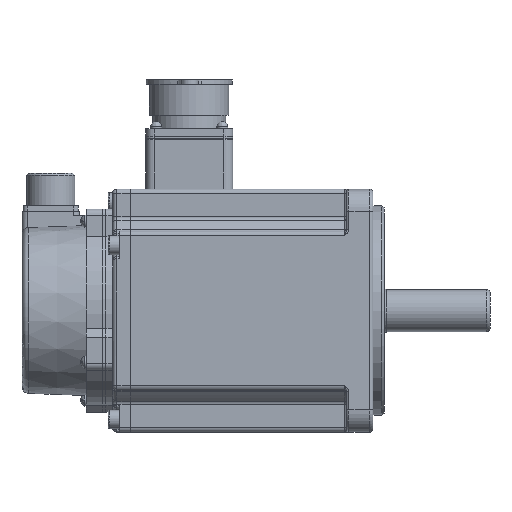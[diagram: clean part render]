
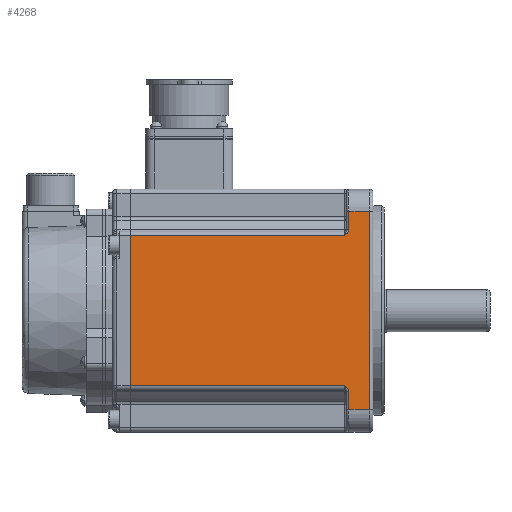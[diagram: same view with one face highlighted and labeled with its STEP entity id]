
A CAD part, left-side view. The second image highlights one B-rep face of the part: STEP entity #4268.
In plain terms, the highlighted planar face has unit normal (-1, 0, 0).
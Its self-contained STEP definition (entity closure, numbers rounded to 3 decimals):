
#1133=LINE('',#25789,#1985);
#1134=LINE('',#25812,#1986);
#1135=LINE('',#25814,#1987);
#1136=LINE('',#25816,#1988);
#1137=LINE('',#25818,#1989);
#1138=LINE('',#25820,#1990);
#1139=LINE('',#25842,#1991);
#1140=LINE('',#25844,#1992);
#1985=VECTOR('',#20324,1.);
#1986=VECTOR('',#20325,1.);
#1987=VECTOR('',#20326,1.);
#1988=VECTOR('',#20327,1.);
#1989=VECTOR('',#20328,1.);
#1990=VECTOR('',#20329,1.);
#1991=VECTOR('',#20330,1.);
#1992=VECTOR('',#20331,1.);
#2324=B_SPLINE_CURVE_WITH_KNOTS('',3,(#25792,#25793,#25794,#25795,#25796,
#25797,#25798,#25799,#25800,#25801,#25802,#25803,#25804,#25805,#25806,#25807,
#25808,#25809,#25810),.UNSPECIFIED.,.F.,.F.,(4,3,3,3,3,3,4),(0.,0.002,
0.104,0.205,0.569,0.789,1.),
 .UNSPECIFIED.);
#2325=B_SPLINE_CURVE_WITH_KNOTS('',3,(#25822,#25823,#25824,#25825,#25826,
#25827,#25828,#25829,#25830,#25831,#25832,#25833,#25834,#25835,#25836,#25837,
#25838,#25839,#25840),.UNSPECIFIED.,.F.,.F.,(4,3,3,3,3,3,4),(0.,0.211,
0.431,0.795,0.896,0.998,
1.),.UNSPECIFIED.);
#2930=FACE_OUTER_BOUND('',#6154,.T.);
#4268=ADVANCED_FACE('',(#2930),#4922,.T.);
#4922=PLANE('',#16499);
#6154=EDGE_LOOP('',(#9148,#9149,#9150,#9151,#9152,#9153,#9154,#9155,#9156,
#9157));
#9148=ORIENTED_EDGE('',*,*,#13445,.T.);
#9149=ORIENTED_EDGE('',*,*,#13446,.T.);
#9150=ORIENTED_EDGE('',*,*,#13447,.T.);
#9151=ORIENTED_EDGE('',*,*,#13448,.T.);
#9152=ORIENTED_EDGE('',*,*,#13449,.T.);
#9153=ORIENTED_EDGE('',*,*,#13450,.T.);
#9154=ORIENTED_EDGE('',*,*,#13451,.T.);
#9155=ORIENTED_EDGE('',*,*,#13452,.T.);
#9156=ORIENTED_EDGE('',*,*,#13453,.T.);
#9157=ORIENTED_EDGE('',*,*,#13454,.F.);
#11693=VERTEX_POINT('',#25790);
#11694=VERTEX_POINT('',#25791);
#11695=VERTEX_POINT('',#25811);
#11696=VERTEX_POINT('',#25813);
#11697=VERTEX_POINT('',#25815);
#11698=VERTEX_POINT('',#25817);
#11699=VERTEX_POINT('',#25819);
#11700=VERTEX_POINT('',#25821);
#11701=VERTEX_POINT('',#25841);
#11702=VERTEX_POINT('',#25843);
#13445=EDGE_CURVE('',#11693,#11694,#1133,.T.);
#13446=EDGE_CURVE('',#11694,#11695,#2324,.T.);
#13447=EDGE_CURVE('',#11695,#11696,#1134,.T.);
#13448=EDGE_CURVE('',#11696,#11697,#1135,.T.);
#13449=EDGE_CURVE('',#11697,#11698,#1136,.T.);
#13450=EDGE_CURVE('',#11698,#11699,#1137,.T.);
#13451=EDGE_CURVE('',#11699,#11700,#1138,.T.);
#13452=EDGE_CURVE('',#11700,#11701,#2325,.T.);
#13453=EDGE_CURVE('',#11701,#11702,#1139,.T.);
#13454=EDGE_CURVE('',#11693,#11702,#1140,.T.);
#16499=AXIS2_PLACEMENT_3D('',#25845,#20332,#20333);
#20324=DIRECTION('',(0.,-1.,0.));
#20325=DIRECTION('',(0.,0.,-1.));
#20326=DIRECTION('',(0.,-1.,0.));
#20327=DIRECTION('',(0.,0.,1.));
#20328=DIRECTION('',(0.,1.,0.));
#20329=DIRECTION('',(0.,0.,-1.));
#20330=DIRECTION('',(0.,1.,0.));
#20331=DIRECTION('',(0.,0.,1.));
#20332=DIRECTION('',(-1.,0.,0.));
#20333=DIRECTION('',(0.,0.,-1.));
#25789=CARTESIAN_POINT('',(0.124,236.222,-125.192));
#25790=CARTESIAN_POINT('',(0.124,313.922,-125.192));
#25791=CARTESIAN_POINT('',(0.124,216.922,-125.192));
#25792=CARTESIAN_POINT('',(0.124,216.922,-125.192));
#25793=CARTESIAN_POINT('',(0.124,216.92,-125.194));
#25794=CARTESIAN_POINT('',(0.124,216.917,-125.196));
#25795=CARTESIAN_POINT('',(0.124,216.915,-125.197));
#25796=CARTESIAN_POINT('',(0.124,216.815,-125.268));
#25797=CARTESIAN_POINT('',(0.124,216.715,-125.339));
#25798=CARTESIAN_POINT('',(0.124,216.616,-125.411));
#25799=CARTESIAN_POINT('',(0.124,216.517,-125.482));
#25800=CARTESIAN_POINT('',(0.124,216.419,-125.555));
#25801=CARTESIAN_POINT('',(0.124,216.323,-125.631));
#25802=CARTESIAN_POINT('',(0.124,215.98,-125.899));
#25803=CARTESIAN_POINT('',(0.124,215.654,-126.204));
#25804=CARTESIAN_POINT('',(0.124,215.406,-126.562));
#25805=CARTESIAN_POINT('',(0.124,215.255,-126.78));
#25806=CARTESIAN_POINT('',(0.124,215.13,-127.019));
#25807=CARTESIAN_POINT('',(0.124,215.046,-127.271));
#25808=CARTESIAN_POINT('',(0.124,214.966,-127.511));
#25809=CARTESIAN_POINT('',(0.124,214.922,-127.767));
#25810=CARTESIAN_POINT('',(0.124,214.922,-128.021));
#25811=CARTESIAN_POINT('',(0.124,214.922,-128.021));
#25812=CARTESIAN_POINT('',(0.124,214.922,-127.192));
#25813=CARTESIAN_POINT('',(0.124,214.922,-136.192));
#25814=CARTESIAN_POINT('',(0.124,203.922,-136.192));
#25815=CARTESIAN_POINT('',(0.124,205.422,-136.192));
#25816=CARTESIAN_POINT('',(0.124,205.422,-46.192));
#25817=CARTESIAN_POINT('',(0.124,205.422,-46.192));
#25818=CARTESIAN_POINT('',(0.124,203.922,-46.192));
#25819=CARTESIAN_POINT('',(0.124,214.922,-46.192));
#25820=CARTESIAN_POINT('',(0.124,214.922,-127.192));
#25821=CARTESIAN_POINT('',(0.124,214.922,-54.364));
#25822=CARTESIAN_POINT('',(0.124,214.922,-54.364));
#25823=CARTESIAN_POINT('',(0.124,214.922,-54.617));
#25824=CARTESIAN_POINT('',(0.124,214.966,-54.873));
#25825=CARTESIAN_POINT('',(0.124,215.046,-55.114));
#25826=CARTESIAN_POINT('',(0.124,215.13,-55.365));
#25827=CARTESIAN_POINT('',(0.124,215.255,-55.605));
#25828=CARTESIAN_POINT('',(0.124,215.406,-55.822));
#25829=CARTESIAN_POINT('',(0.124,215.654,-56.18));
#25830=CARTESIAN_POINT('',(0.124,215.98,-56.485));
#25831=CARTESIAN_POINT('',(0.124,216.323,-56.754));
#25832=CARTESIAN_POINT('',(0.124,216.419,-56.829));
#25833=CARTESIAN_POINT('',(0.124,216.517,-56.902));
#25834=CARTESIAN_POINT('',(0.124,216.616,-56.974));
#25835=CARTESIAN_POINT('',(0.124,216.715,-57.046));
#25836=CARTESIAN_POINT('',(0.124,216.815,-57.116));
#25837=CARTESIAN_POINT('',(0.124,216.915,-57.187));
#25838=CARTESIAN_POINT('',(0.124,216.917,-57.189));
#25839=CARTESIAN_POINT('',(0.124,216.92,-57.19));
#25840=CARTESIAN_POINT('',(0.124,216.922,-57.192));
#25841=CARTESIAN_POINT('',(0.124,216.922,-57.192));
#25842=CARTESIAN_POINT('',(0.124,236.222,-57.192));
#25843=CARTESIAN_POINT('',(0.124,313.922,-57.192));
#25844=CARTESIAN_POINT('',(0.124,313.922,-91.192));
#25845=CARTESIAN_POINT('',(0.124,236.222,-127.192));
